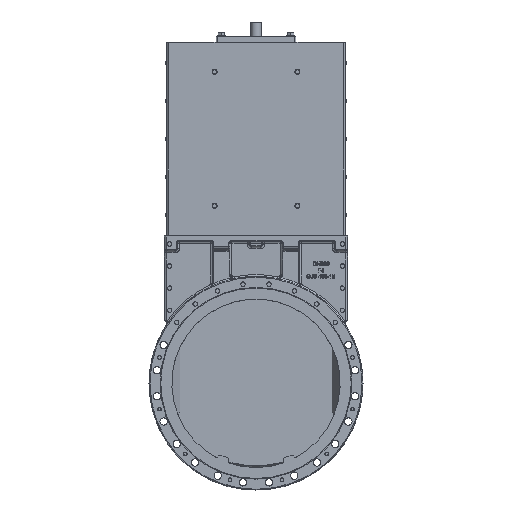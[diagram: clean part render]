
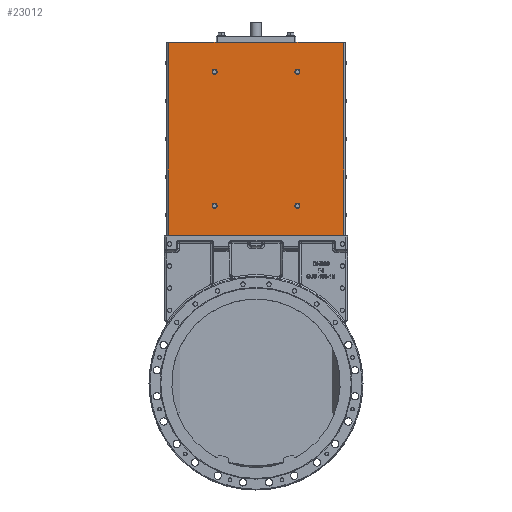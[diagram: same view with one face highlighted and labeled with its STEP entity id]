
A CAD part, top view. The second image highlights one B-rep face of the part: STEP entity #23012.
In plain terms, the highlighted planar face has unit normal (0, 0, 1).
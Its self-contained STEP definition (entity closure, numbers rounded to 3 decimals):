
#15552=FACE_BOUND('',#29997,.T.);
#15553=FACE_BOUND('',#29998,.T.);
#15554=FACE_BOUND('',#29999,.T.);
#15555=FACE_BOUND('',#30000,.T.);
#15556=FACE_BOUND('',#30001,.T.);
#16326=LINE('',#70704,#18556);
#18044=LINE('',#91473,#20496);
#18045=LINE('',#91476,#20497);
#18046=LINE('',#91478,#20498);
#18047=LINE('',#91479,#20499);
#18048=LINE('',#91481,#20500);
#18556=VECTOR('',#59410,1.);
#20496=VECTOR('',#67158,1.);
#20497=VECTOR('',#67159,1.);
#20498=VECTOR('',#67160,1.);
#20499=VECTOR('',#67161,1.);
#20500=VECTOR('',#67162,1.);
#23012=ADVANCED_FACE('',(#15552,#15553,#15554,#15555,#15556),#24784,.T.);
#24784=PLANE('',#57750);
#29997=EDGE_LOOP('',(#40060));
#29998=EDGE_LOOP('',(#40061));
#29999=EDGE_LOOP('',(#40062));
#30000=EDGE_LOOP('',(#40063));
#30001=EDGE_LOOP('',(#40064,#40065,#40066,#40067,#40068,#40069));
#40060=ORIENTED_EDGE('',*,*,#51525,.T.);
#40061=ORIENTED_EDGE('',*,*,#51526,.T.);
#40062=ORIENTED_EDGE('',*,*,#51527,.T.);
#40063=ORIENTED_EDGE('',*,*,#51528,.T.);
#40064=ORIENTED_EDGE('',*,*,#51529,.F.);
#40065=ORIENTED_EDGE('',*,*,#51530,.T.);
#40066=ORIENTED_EDGE('',*,*,#51531,.F.);
#40067=ORIENTED_EDGE('',*,*,#47155,.F.);
#40068=ORIENTED_EDGE('',*,*,#51532,.F.);
#40069=ORIENTED_EDGE('',*,*,#51533,.T.);
#43037=VERTEX_POINT('',#70702);
#43039=VERTEX_POINT('',#70705);
#46061=VERTEX_POINT('',#91466);
#46062=VERTEX_POINT('',#91468);
#46063=VERTEX_POINT('',#91470);
#46064=VERTEX_POINT('',#91472);
#46065=VERTEX_POINT('',#91474);
#46066=VERTEX_POINT('',#91475);
#46067=VERTEX_POINT('',#91477);
#46068=VERTEX_POINT('',#91480);
#47155=EDGE_CURVE('',#43037,#43039,#16326,.T.);
#51525=EDGE_CURVE('',#46061,#46061,#54157,.T.);
#51526=EDGE_CURVE('',#46062,#46062,#54158,.T.);
#51527=EDGE_CURVE('',#46063,#46063,#54159,.T.);
#51528=EDGE_CURVE('',#46064,#46064,#54160,.T.);
#51529=EDGE_CURVE('',#46065,#46066,#18044,.T.);
#51530=EDGE_CURVE('',#46065,#46067,#18045,.T.);
#51531=EDGE_CURVE('',#43039,#46067,#18046,.T.);
#51532=EDGE_CURVE('',#46068,#43037,#18047,.T.);
#51533=EDGE_CURVE('',#46068,#46066,#18048,.T.);
#54157=CIRCLE('',#57746,12.);
#54158=CIRCLE('',#57747,12.);
#54159=CIRCLE('',#57748,12.);
#54160=CIRCLE('',#57749,12.);
#57746=AXIS2_PLACEMENT_3D('',#91465,#67150,#67151);
#57747=AXIS2_PLACEMENT_3D('',#91467,#67152,#67153);
#57748=AXIS2_PLACEMENT_3D('',#91469,#67154,#67155);
#57749=AXIS2_PLACEMENT_3D('',#91471,#67156,#67157);
#57750=AXIS2_PLACEMENT_3D('',#91482,#67163,#67164);
#59410=DIRECTION('',(1.,0.,0.));
#67150=DIRECTION('',(0.,0.,-1.));
#67151=DIRECTION('',(1.,0.,0.));
#67152=DIRECTION('',(0.,0.,-1.));
#67153=DIRECTION('',(0.,-1.,0.));
#67154=DIRECTION('',(0.,0.,-1.));
#67155=DIRECTION('',(0.,-1.,0.));
#67156=DIRECTION('',(0.,0.,-1.));
#67157=DIRECTION('',(1.,0.,0.));
#67158=DIRECTION('',(-1.,0.,0.));
#67159=DIRECTION('',(0.,1.,0.));
#67160=DIRECTION('',(1.,0.,0.));
#67161=DIRECTION('',(1.,0.,0.));
#67162=DIRECTION('',(0.,-1.,0.));
#67163=DIRECTION('',(0.,0.,1.));
#67164=DIRECTION('',(1.,0.,0.));
#70702=CARTESIAN_POINT('',(-190.,1620.,107.));
#70704=CARTESIAN_POINT('',(0.,1620.,107.));
#70705=CARTESIAN_POINT('',(190.,1620.,107.));
#91465=CARTESIAN_POINT('',(197.,843.,107.));
#91466=CARTESIAN_POINT('',(209.,843.,107.));
#91467=CARTESIAN_POINT('',(-197.,843.,107.));
#91468=CARTESIAN_POINT('',(-197.,831.,107.));
#91469=CARTESIAN_POINT('',(-197.,1480.,107.));
#91470=CARTESIAN_POINT('',(-197.,1468.,107.));
#91471=CARTESIAN_POINT('',(197.,1480.,107.));
#91472=CARTESIAN_POINT('',(209.,1480.,107.));
#91473=CARTESIAN_POINT('',(0.,703.,107.));
#91474=CARTESIAN_POINT('',(417.75,703.,107.));
#91475=CARTESIAN_POINT('',(-417.75,703.,107.));
#91476=CARTESIAN_POINT('',(417.75,1101.5,107.));
#91477=CARTESIAN_POINT('',(417.75,1620.,107.));
#91478=CARTESIAN_POINT('',(0.,1620.,107.));
#91479=CARTESIAN_POINT('',(0.,1620.,107.));
#91480=CARTESIAN_POINT('',(-417.75,1620.,107.));
#91481=CARTESIAN_POINT('',(-417.75,1101.5,107.));
#91482=CARTESIAN_POINT('',(0.,1101.5,107.));
